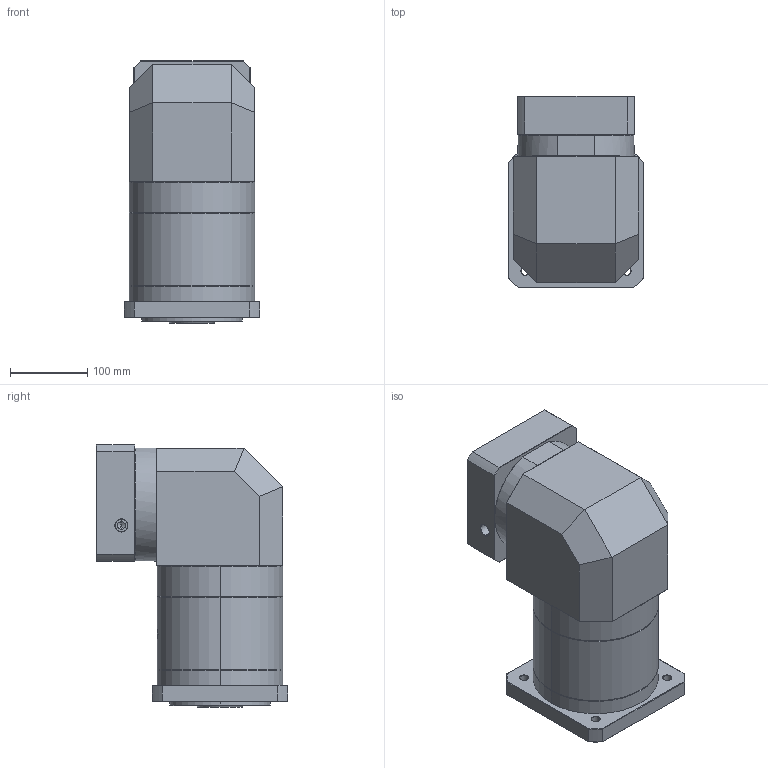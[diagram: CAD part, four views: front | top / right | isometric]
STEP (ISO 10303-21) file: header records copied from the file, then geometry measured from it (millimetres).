
FILE_DESCRIPTION (( 'STEP AP214' ), '1' );
FILE_NAME ('ZFR160A-K35-L3-P2-32-130-165-M10.step', '2023-09-03T09:03:25', ( '' ), ( '' ), 'SwSTEP 2.0', 'SolidWorks 2016', '' );
FILE_SCHEMA (( 'AUTOMOTIVE_DESIGN' ));
Length unit declared in the file: millimetre
Products named in the file (1): ZFR160A-K35-L3-P2-32-130-165-M10
Bounding box: 175 x 247.5 x 338.7 mm (x, y, z)
Volume: 8113630.5 mm3; surface area: 475511 mm2
Topology: 6 solids, 6 shells, 2149 faces, 5685 edges, 3642 vertices
Faces by surface type: plane 1041, bspline 394, cylinder 379, cone 302, torus 33
Entity records: 120390 total; most frequent: CARTESIAN_POINT 48593, ORIENTED_EDGE 11314, DIRECTION 8243, EDGE_CURVE 5657, VERTEX_POINT 3642, VECTOR 3035, LINE 3035, AXIS2_PLACEMENT_3D 2604
